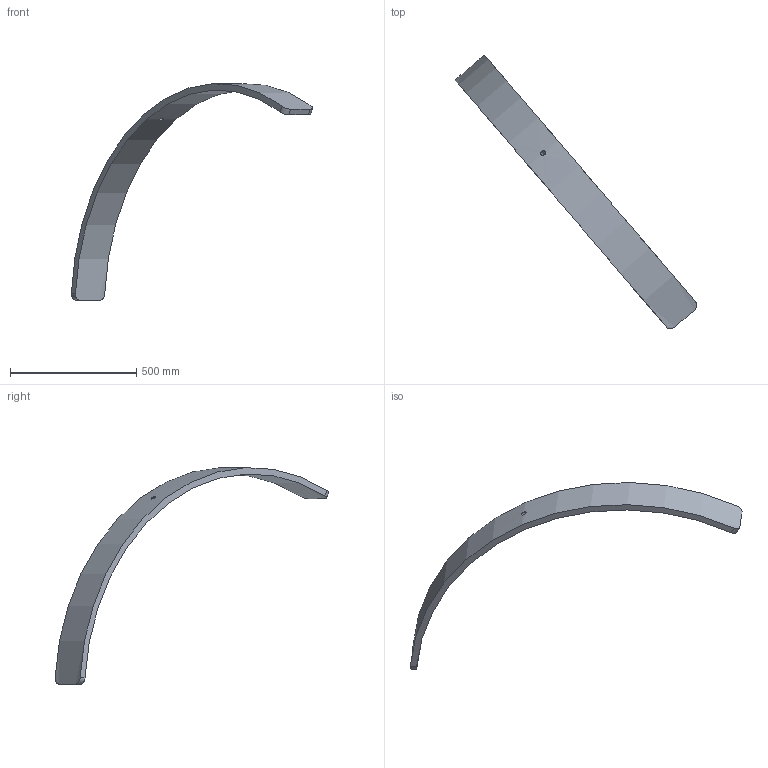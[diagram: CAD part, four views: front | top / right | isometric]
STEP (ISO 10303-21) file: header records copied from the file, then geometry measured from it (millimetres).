
FILE_DESCRIPTION (( 'STEP AP214' ), '1' );
FILE_NAME ('Section 9 AR.STEP', '2025-01-09T19:43:29', ( '' ), ( '' ), 'SwSTEP 2.0', 'SolidWorks 2024', '' );
FILE_SCHEMA (( 'AUTOMOTIVE_DESIGN' ));
Length unit declared in the file: inch
Products named in the file (1): Section 9 AR
Bounding box: 955.37 x 1083.43 x 857.56 mm (x, y, z)
Volume: 6842146 mm3; surface area: 637010.4 mm2
Topology: 1 solids, 1 shells, 11 faces, 27 edges, 18 vertices
Faces by surface type: cylinder 7, plane 4
Full cylindrical faces by diameter (mm): 19.431 x1
Entity records: 745 total; most frequent: CARTESIAN_POINT 470, ORIENTED_EDGE 52, DIRECTION 44, EDGE_CURVE 26, VERTEX_POINT 18, AXIS2_PLACEMENT_3D 16, EDGE_LOOP 14, FACE_OUTER_BOUND 12
